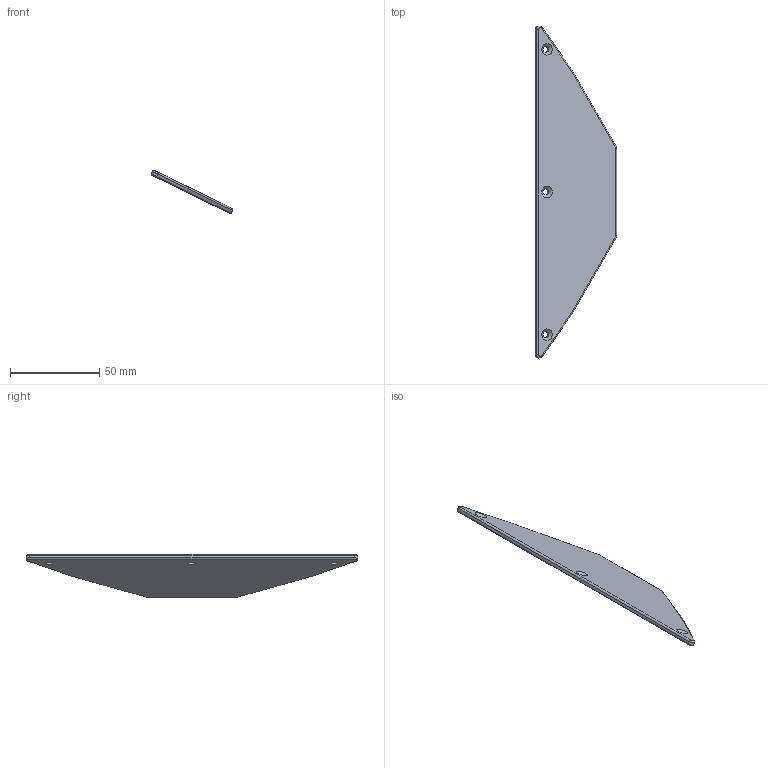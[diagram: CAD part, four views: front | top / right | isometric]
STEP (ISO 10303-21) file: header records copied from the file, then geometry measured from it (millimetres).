
FILE_DESCRIPTION(/* description */ ('STEP AP242 Edition 2','CAx-IF Rec.Pracs.---Representation and Presentation of Product Manufacturing Information (PMI)---4.0---2014-10-13','CAx-IF Rec.Pracs.---3D Tessellated Geometry---0.4---2014-09-14','2;1','CAx-IF Rec.Pracs.---User Defined Attributes---1.5---2016-08-15'),/* implementation_level */ '2;1');
FILE_NAME(/* name */ 'Chassis No Suspension - nose_cover',/* time_stamp */ '2026-10-25T14:46:20Z',/* author */ (''),/* organization */ (''),/* preprocessor_version */ 'ST-DEVELOPER v20',/* originating_system */ 'ONSHAPE BY PTC INC, 1.222',/* authorisation */ ' ');
FILE_SCHEMA (('AP242_MANAGED_MODEL_BASED_3D_ENGINEERING_MIM_LF { 1 0 10303 442 3 1 4 }'));
Length unit declared in the file: metre
Products named in the file (1): nose_cover
Bounding box: 45.76 x 186.3 x 24.14 mm (x, y, z)
Volume: 18510.3 mm3; surface area: 13469.5 mm2
Topology: 1 solids, 1 shells, 38 faces, 88 edges, 52 vertices
Faces by surface type: plane 14, cylinder 13, cone 7, torus 4
Full cylindrical faces by diameter (mm): 3.6 x3
Entity records: 1112 total; most frequent: CARTESIAN_POINT 205, DIRECTION 194, ORIENTED_EDGE 176, EDGE_CURVE 88, AXIS2_PLACEMENT_3D 75, VERTEX_POINT 52, LINE 44, VECTOR 44
